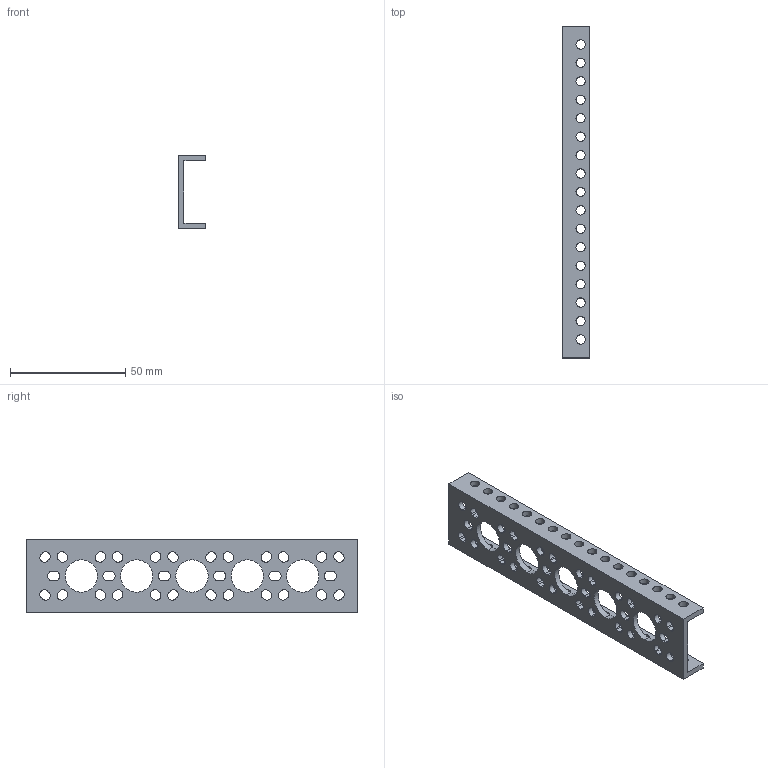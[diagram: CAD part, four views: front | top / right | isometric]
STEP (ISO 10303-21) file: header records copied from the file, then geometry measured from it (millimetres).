
FILE_DESCRIPTION (( 'STEP AP203' ), '1' );
FILE_NAME ('1143-0005-0144.STEP', '2022-04-26T16:54:57', ( '' ), ( '' ), 'SwSTEP 2.0', 'SolidWorks 2016', '' );
FILE_SCHEMA (( 'CONFIG_CONTROL_DESIGN' ));
Length unit declared in the file: millimetre
Products named in the file (1): 1143-0005-0144
Bounding box: 12 x 144 x 32 mm (x, y, z)
Volume: 14124.4 mm3; surface area: 14983.6 mm2
Topology: 1 solids, 1 shells, 232 faces, 690 edges, 460 vertices
Faces by surface type: cylinder 162, plane 70
Entity records: 8291 total; most frequent: DIRECTION 1480, CARTESIAN_POINT 1383, ORIENTED_EDGE 1380, EDGE_CURVE 690, AXIS2_PLACEMENT_3D 557, VERTEX_POINT 460, EDGE_LOOP 370, VECTOR 366
